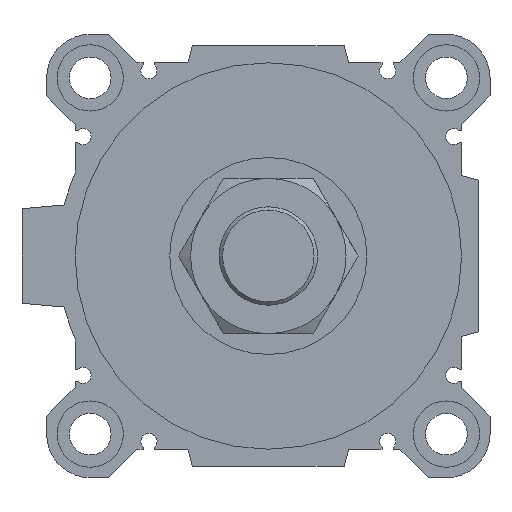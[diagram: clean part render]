
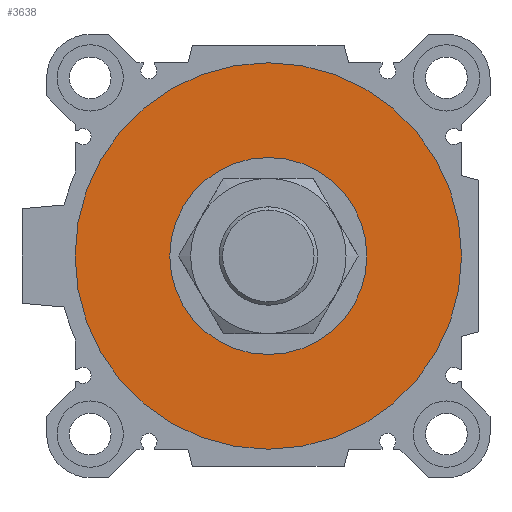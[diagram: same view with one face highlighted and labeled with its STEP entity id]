
A CAD part, left-side view. The second image highlights one B-rep face of the part: STEP entity #3638.
In plain terms, the highlighted planar face has unit normal (-1, 0, 0).
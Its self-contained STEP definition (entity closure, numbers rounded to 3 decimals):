
#110 = AXIS2_PLACEMENT_3D ( 'NONE', #3453, #372, #4089 ) ;
#338 = CARTESIAN_POINT ( 'NONE',  ( 6.5, 0., 51. ) ) ;
#372 = DIRECTION ( 'NONE',  ( 1., 0., 0. ) ) ;
#609 = EDGE_CURVE ( 'NONE', #4672, #6466, #5837, .T. ) ;
#665 = DIRECTION ( 'NONE',  ( 1., 0., 0. ) ) ;
#699 = CARTESIAN_POINT ( 'NONE',  ( 6.5, 0., 0. ) ) ;
#1009 = EDGE_CURVE ( 'NONE', #3174, #1430, #6491, .T. ) ;
#1033 = AXIS2_PLACEMENT_3D ( 'NONE', #4145, #1659, #7729 ) ;
#1128 = FACE_BOUND ( 'NONE', #4464, .T. ) ;
#1430 = VERTEX_POINT ( 'NONE', #338 ) ;
#1452 = ORIENTED_EDGE ( 'NONE', *, *, #5509, .F. ) ;
#1659 = DIRECTION ( 'NONE',  ( 1., 0., 0. ) ) ;
#1718 = CARTESIAN_POINT ( 'NONE',  ( 6.5, 0., 26. ) ) ;
#2476 = CARTESIAN_POINT ( 'NONE',  ( 6.5, 0., 0. ) ) ;
#2972 = DIRECTION ( 'NONE',  ( 0., 0., -1. ) ) ;
#3006 = EDGE_CURVE ( 'NONE', #6466, #4672, #7528, .T. ) ;
#3174 = VERTEX_POINT ( 'NONE', #5642 ) ;
#3186 = CARTESIAN_POINT ( 'NONE',  ( 6.5, 0., 0. ) ) ;
#3434 = FACE_OUTER_BOUND ( 'NONE', #7391, .T. ) ;
#3453 = CARTESIAN_POINT ( 'NONE',  ( 6.5, 0., 0. ) ) ;
#3638 = ADVANCED_FACE ( 'NONE', ( #3434, #1128 ), #5860, .F. ) ;
#4089 = DIRECTION ( 'NONE',  ( 0., 0., -1. ) ) ;
#4145 = CARTESIAN_POINT ( 'NONE',  ( 6.5, 0., 0. ) ) ;
#4171 = DIRECTION ( 'NONE',  ( 1., 0., 0. ) ) ;
#4196 = AXIS2_PLACEMENT_3D ( 'NONE', #3186, #7302, #4277 ) ;
#4277 = DIRECTION ( 'NONE',  ( 0., 0., -1. ) ) ;
#4464 = EDGE_LOOP ( 'NONE', ( #5264, #5329 ) ) ;
#4672 = VERTEX_POINT ( 'NONE', #7801 ) ;
#4983 = AXIS2_PLACEMENT_3D ( 'NONE', #2476, #4171, #2972 ) ;
#5264 = ORIENTED_EDGE ( 'NONE', *, *, #3006, .T. ) ;
#5329 = ORIENTED_EDGE ( 'NONE', *, *, #609, .T. ) ;
#5509 = EDGE_CURVE ( 'NONE', #1430, #3174, #5892, .T. ) ;
#5587 = DIRECTION ( 'NONE',  ( 0., 0., -1. ) ) ;
#5642 = CARTESIAN_POINT ( 'NONE',  ( 6.5, 0., -51. ) ) ;
#5837 = CIRCLE ( 'NONE', #110, 26. ) ;
#5860 = PLANE ( 'NONE',  #1033 ) ;
#5892 = CIRCLE ( 'NONE', #6919, 51. ) ;
#6466 = VERTEX_POINT ( 'NONE', #1718 ) ;
#6491 = CIRCLE ( 'NONE', #4196, 51. ) ;
#6919 = AXIS2_PLACEMENT_3D ( 'NONE', #699, #665, #5587 ) ;
#7302 = DIRECTION ( 'NONE',  ( 1., 0., 0. ) ) ;
#7391 = EDGE_LOOP ( 'NONE', ( #1452, #7601 ) ) ;
#7528 = CIRCLE ( 'NONE', #4983, 26. ) ;
#7601 = ORIENTED_EDGE ( 'NONE', *, *, #1009, .F. ) ;
#7729 = DIRECTION ( 'NONE',  ( 0., 1., 0. ) ) ;
#7801 = CARTESIAN_POINT ( 'NONE',  ( 6.5, 0., -26. ) ) ;
